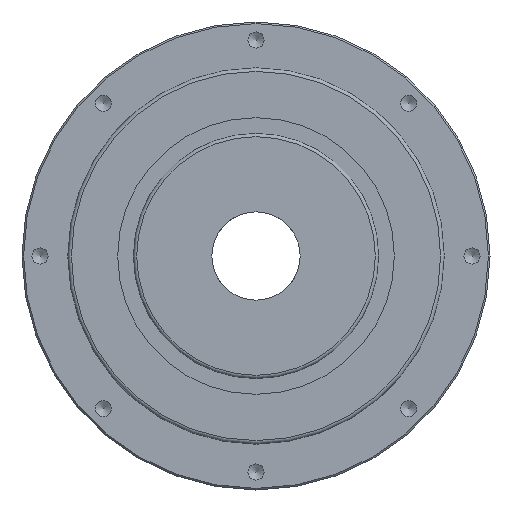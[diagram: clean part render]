
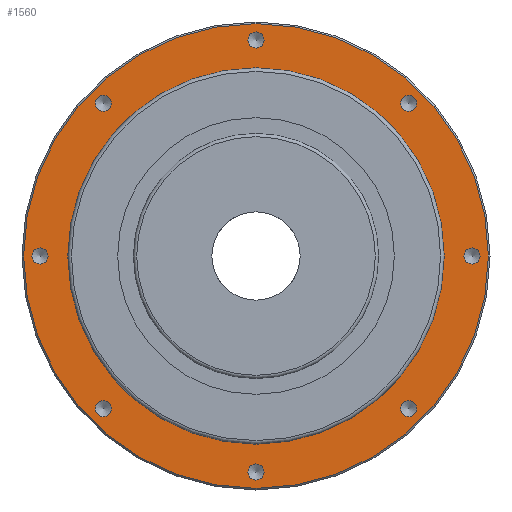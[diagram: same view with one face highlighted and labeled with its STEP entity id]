
A CAD part, left-side view. The second image highlights one B-rep face of the part: STEP entity #1560.
In plain terms, the highlighted planar face has unit normal (-1, 0, 0).
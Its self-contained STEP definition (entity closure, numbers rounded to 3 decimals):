
#116=PLANE('',#1681);
#176=CIRCLE('',#1680,57.5);
#177=CIRCLE('',#1682,2.459);
#178=CIRCLE('',#1683,2.459);
#179=CIRCLE('',#1684,2.459);
#180=CIRCLE('',#1685,2.459);
#181=CIRCLE('',#1686,2.459);
#182=CIRCLE('',#1687,2.459);
#183=CIRCLE('',#1688,2.459);
#184=CIRCLE('',#1689,2.459);
#185=CIRCLE('',#1690,71.);
#279=ORIENTED_EDGE('',*,*,#489,.T.);
#280=ORIENTED_EDGE('',*,*,#490,.T.);
#281=ORIENTED_EDGE('',*,*,#491,.T.);
#282=ORIENTED_EDGE('',*,*,#492,.T.);
#283=ORIENTED_EDGE('',*,*,#493,.T.);
#284=ORIENTED_EDGE('',*,*,#494,.T.);
#285=ORIENTED_EDGE('',*,*,#495,.T.);
#286=ORIENTED_EDGE('',*,*,#496,.T.);
#287=ORIENTED_EDGE('',*,*,#497,.T.);
#288=ORIENTED_EDGE('',*,*,#488,.F.);
#488=EDGE_CURVE('',#593,#593,#176,.T.);
#489=EDGE_CURVE('',#594,#594,#177,.T.);
#490=EDGE_CURVE('',#595,#595,#178,.T.);
#491=EDGE_CURVE('',#596,#596,#179,.T.);
#492=EDGE_CURVE('',#597,#597,#180,.T.);
#493=EDGE_CURVE('',#598,#598,#181,.T.);
#494=EDGE_CURVE('',#599,#599,#182,.T.);
#495=EDGE_CURVE('',#600,#600,#183,.T.);
#496=EDGE_CURVE('',#601,#601,#184,.T.);
#497=EDGE_CURVE('',#602,#602,#185,.T.);
#593=VERTEX_POINT('',#2323);
#594=VERTEX_POINT('',#2326);
#595=VERTEX_POINT('',#2328);
#596=VERTEX_POINT('',#2330);
#597=VERTEX_POINT('',#2332);
#598=VERTEX_POINT('',#2334);
#599=VERTEX_POINT('',#2336);
#600=VERTEX_POINT('',#2338);
#601=VERTEX_POINT('',#2340);
#602=VERTEX_POINT('',#2342);
#702=EDGE_LOOP('',(#279));
#703=EDGE_LOOP('',(#280));
#704=EDGE_LOOP('',(#281));
#705=EDGE_LOOP('',(#282));
#706=EDGE_LOOP('',(#283));
#707=EDGE_LOOP('',(#284));
#708=EDGE_LOOP('',(#285));
#709=EDGE_LOOP('',(#286));
#710=EDGE_LOOP('',(#287));
#711=EDGE_LOOP('',(#288));
#844=FACE_BOUND('',#702,.T.);
#845=FACE_BOUND('',#703,.T.);
#846=FACE_BOUND('',#704,.T.);
#847=FACE_BOUND('',#705,.T.);
#848=FACE_BOUND('',#706,.T.);
#849=FACE_BOUND('',#707,.T.);
#850=FACE_BOUND('',#708,.T.);
#851=FACE_BOUND('',#709,.T.);
#852=FACE_BOUND('',#710,.T.);
#853=FACE_BOUND('',#711,.T.);
#1560=ADVANCED_FACE('',(#844,#845,#846,#847,#848,#849,#850,#851,#852,#853),
#116,.T.);
#1680=AXIS2_PLACEMENT_3D('',#2322,#1891,#1892);
#1681=AXIS2_PLACEMENT_3D('',#2324,#1893,#1894);
#1682=AXIS2_PLACEMENT_3D('',#2325,#1895,#1896);
#1683=AXIS2_PLACEMENT_3D('',#2327,#1897,#1898);
#1684=AXIS2_PLACEMENT_3D('',#2329,#1899,#1900);
#1685=AXIS2_PLACEMENT_3D('',#2331,#1901,#1902);
#1686=AXIS2_PLACEMENT_3D('',#2333,#1903,#1904);
#1687=AXIS2_PLACEMENT_3D('',#2335,#1905,#1906);
#1688=AXIS2_PLACEMENT_3D('',#2337,#1907,#1908);
#1689=AXIS2_PLACEMENT_3D('',#2339,#1909,#1910);
#1690=AXIS2_PLACEMENT_3D('',#2341,#1911,#1912);
#1891=DIRECTION('',(-1.,0.,0.));
#1892=DIRECTION('',(0.,0.,1.));
#1893=DIRECTION('',(-1.,0.,0.));
#1894=DIRECTION('',(0.,0.,1.));
#1895=DIRECTION('',(1.,0.,0.));
#1896=DIRECTION('',(0.,0.,1.));
#1897=DIRECTION('',(1.,0.,0.));
#1898=DIRECTION('',(0.,0.,1.));
#1899=DIRECTION('',(1.,0.,0.));
#1900=DIRECTION('',(0.,0.,1.));
#1901=DIRECTION('',(1.,0.,0.));
#1902=DIRECTION('',(0.,0.,1.));
#1903=DIRECTION('',(1.,0.,0.));
#1904=DIRECTION('',(0.,0.,1.));
#1905=DIRECTION('',(1.,0.,0.));
#1906=DIRECTION('',(0.,0.,1.));
#1907=DIRECTION('',(1.,0.,0.));
#1908=DIRECTION('',(0.,0.,1.));
#1909=DIRECTION('',(1.,0.,0.));
#1910=DIRECTION('',(0.,0.,1.));
#1911=DIRECTION('',(-1.,0.,0.));
#1912=DIRECTION('',(0.,0.,1.));
#2322=CARTESIAN_POINT('',(16.,0.,0.));
#2323=CARTESIAN_POINT('',(16.,0.,57.5));
#2324=CARTESIAN_POINT('',(16.,0.,57.5));
#2325=CARTESIAN_POINT('',(16.,46.669,46.669));
#2326=CARTESIAN_POINT('',(16.,46.669,49.128));
#2327=CARTESIAN_POINT('',(16.,66.,0.));
#2328=CARTESIAN_POINT('',(16.,66.,2.458));
#2329=CARTESIAN_POINT('',(16.,46.669,-46.669));
#2330=CARTESIAN_POINT('',(16.,46.669,-44.211));
#2331=CARTESIAN_POINT('',(16.,0.,-66.));
#2332=CARTESIAN_POINT('',(16.,0.,-63.542));
#2333=CARTESIAN_POINT('',(16.,-46.669,-46.669));
#2334=CARTESIAN_POINT('',(16.,-46.669,-44.211));
#2335=CARTESIAN_POINT('',(16.,-66.,0.));
#2336=CARTESIAN_POINT('',(16.,-66.,2.458));
#2337=CARTESIAN_POINT('',(16.,-46.669,46.669));
#2338=CARTESIAN_POINT('',(16.,-46.669,49.128));
#2339=CARTESIAN_POINT('',(16.,0.,66.));
#2340=CARTESIAN_POINT('',(16.,0.,68.459));
#2341=CARTESIAN_POINT('',(16.,0.,0.));
#2342=CARTESIAN_POINT('',(16.,0.,71.));
